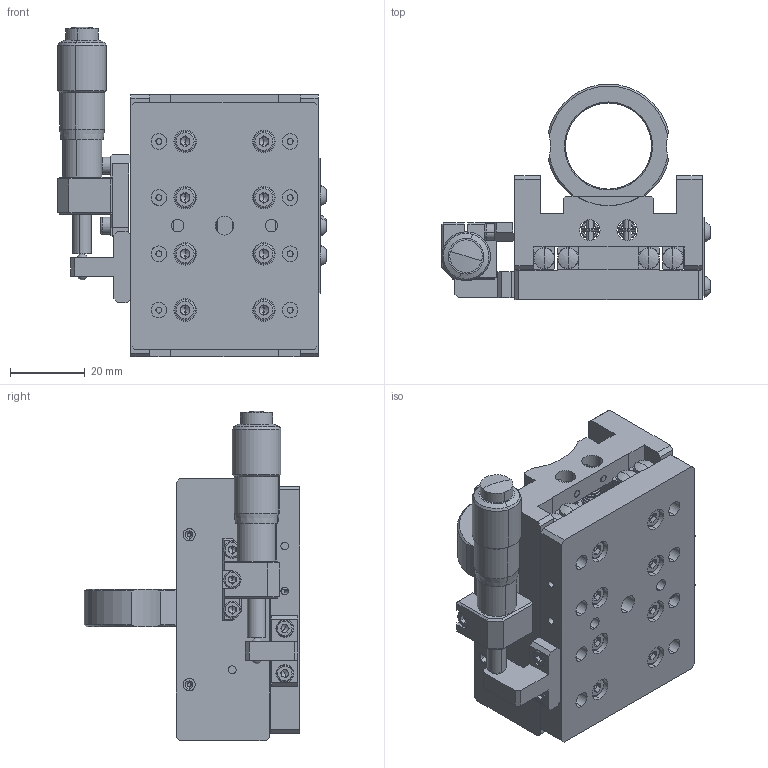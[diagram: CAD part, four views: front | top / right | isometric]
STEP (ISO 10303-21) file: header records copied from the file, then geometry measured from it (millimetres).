
FILE_DESCRIPTION (( 'STEP AP203' ), '1' );
FILE_NAME ('CSAK1-13.STEP', '2024-06-19T05:35:48', ( '' ), ( '' ), 'SwSTEP 2.0', 'SolidWorks 2021', '' );
FILE_SCHEMA (( 'CONFIG_CONTROL_DESIGN' ));
Length unit declared in the file: millimetre
Products named in the file (1): CSAK1-13
Bounding box: 71.65 x 57.5 x 88 mm (x, y, z)
Surface area: 40428.9 mm2 (no closed solid volume)
Topology: 0 solids, 85 shells, 793 faces, 3281 edges, 2482 vertices
Faces by surface type: plane 467, cylinder 156, cone 88, torus 34, bspline 32, sphere 16
Entity records: 54617 total; most frequent: CARTESIAN_POINT 28354, DIRECTION 5158, ORIENTED_EDGE 4806, EDGE_CURVE 3229, VERTEX_POINT 2476, LINE 2142, VECTOR 2142, AXIS2_PLACEMENT_3D 1508
